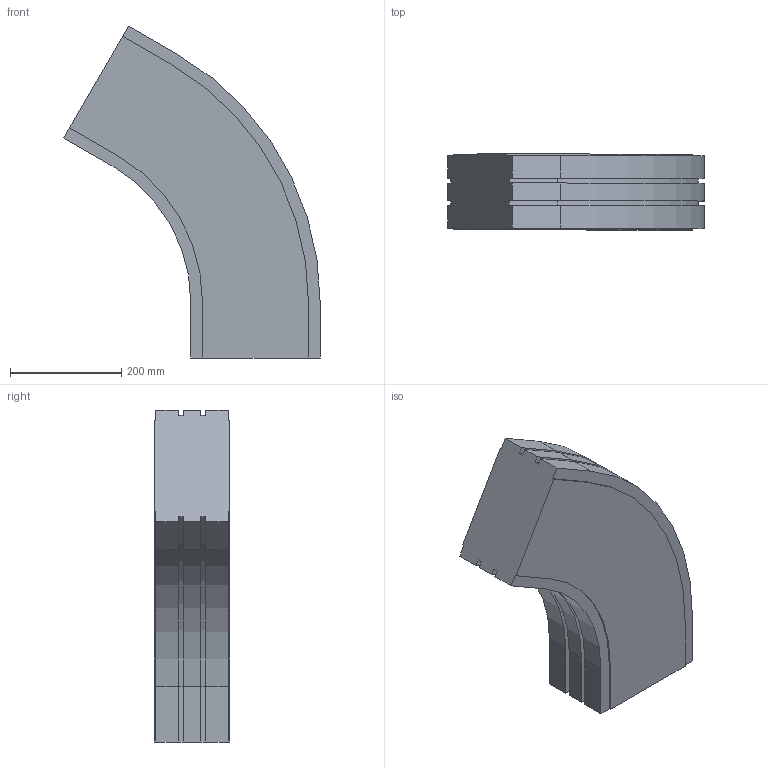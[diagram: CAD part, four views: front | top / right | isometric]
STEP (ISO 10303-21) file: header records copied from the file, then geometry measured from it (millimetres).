
FILE_DESCRIPTION (( 'STEP AP214' ), '1' );
FILE_NAME ('02.150H60.230.N FS-MTC-150 Bocht horizontaal 60°.STEP', '2013-03-29T11:13:10', ( 'Gebruiker' ), ( '' ), 'SwSTEP 2.0', 'SolidWorks 2012', '' );
FILE_SCHEMA (( 'AUTOMOTIVE_DESIGN' ));
Length unit declared in the file: millimetre
Products named in the file (1): 02.150H60.230.N FS-MTC-150 Bocht horizontaal 60°
Bounding box: 460.98 x 136 x 597.09 mm (x, y, z)
Volume: 19207529.3 mm3; surface area: 572647.2 mm2
Topology: 1 solids, 1 shells, 58 faces, 168 edges, 112 vertices
Faces by surface type: plane 44, cylinder 14
Entity records: 1934 total; most frequent: CARTESIAN_POINT 339, ORIENTED_EDGE 336, DIRECTION 314, EDGE_CURVE 168, VECTOR 140, LINE 140, VERTEX_POINT 112, AXIS2_PLACEMENT_3D 87
